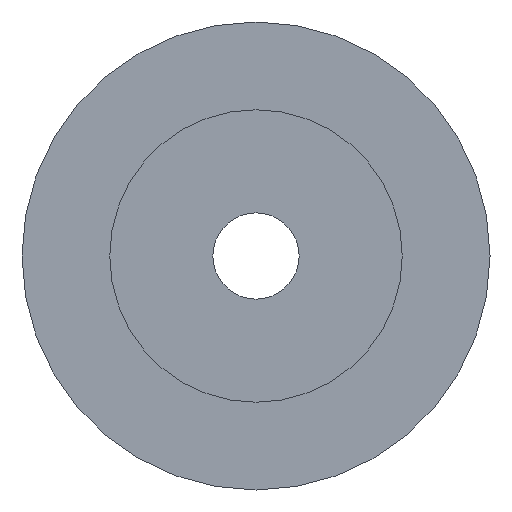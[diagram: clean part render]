
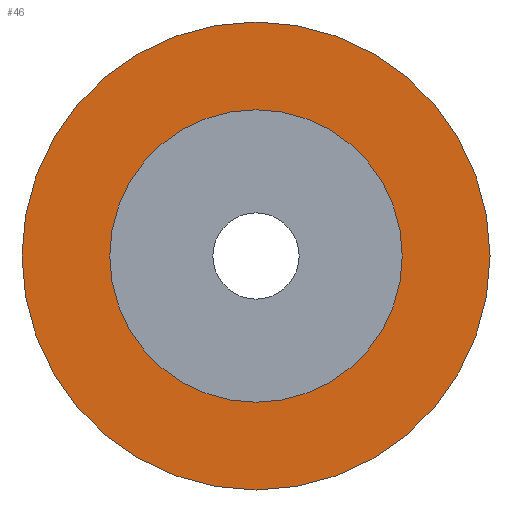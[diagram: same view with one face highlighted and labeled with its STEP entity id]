
A CAD part, front view. The second image highlights one B-rep face of the part: STEP entity #46.
In plain terms, the highlighted planar face has unit normal (0, -1, 0).
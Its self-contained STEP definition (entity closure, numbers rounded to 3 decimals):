
#2 = PLANE ( 'NONE',  #277 ) ;
#13 = FACE_BOUND ( 'NONE', #43, .T. ) ;
#15 = DIRECTION ( 'NONE',  ( 0., 0., 1. ) ) ;
#17 = CARTESIAN_POINT ( 'NONE',  ( 0., 0., 0. ) ) ;
#30 = CARTESIAN_POINT ( 'NONE',  ( 0., 0., 0. ) ) ;
#43 = EDGE_LOOP ( 'NONE', ( #94 ) ) ;
#46 = ADVANCED_FACE ( 'NONE', ( #156, #13 ), #2, .F. ) ;
#62 = EDGE_CURVE ( 'NONE', #205, #205, #109, .T. ) ;
#68 = VERTEX_POINT ( 'NONE', #113 ) ;
#91 = CARTESIAN_POINT ( 'NONE',  ( 0., 0., 32. ) ) ;
#94 = ORIENTED_EDGE ( 'NONE', *, *, #202, .T. ) ;
#109 = CIRCLE ( 'NONE', #276, 32. ) ;
#113 = CARTESIAN_POINT ( 'NONE',  ( 0., 0., 20. ) ) ;
#156 = FACE_OUTER_BOUND ( 'NONE', #169, .T. ) ;
#160 = DIRECTION ( 'NONE',  ( 0., 0., 1. ) ) ;
#169 = EDGE_LOOP ( 'NONE', ( #295 ) ) ;
#181 = DIRECTION ( 'NONE',  ( 0., 0., 1. ) ) ;
#183 = AXIS2_PLACEMENT_3D ( 'NONE', #17, #185, #15 ) ;
#184 = DIRECTION ( 'NONE',  ( 0., 1., 0. ) ) ;
#185 = DIRECTION ( 'NONE',  ( 0., 1., 0. ) ) ;
#202 = EDGE_CURVE ( 'NONE', #68, #68, #288, .T. ) ;
#205 = VERTEX_POINT ( 'NONE', #91 ) ;
#241 = CARTESIAN_POINT ( 'NONE',  ( 0., 0., 0. ) ) ;
#263 = DIRECTION ( 'NONE',  ( 0., 1., 0. ) ) ;
#276 = AXIS2_PLACEMENT_3D ( 'NONE', #241, #263, #181 ) ;
#277 = AXIS2_PLACEMENT_3D ( 'NONE', #30, #184, #160 ) ;
#288 = CIRCLE ( 'NONE', #183, 20. ) ;
#295 = ORIENTED_EDGE ( 'NONE', *, *, #62, .F. ) ;
